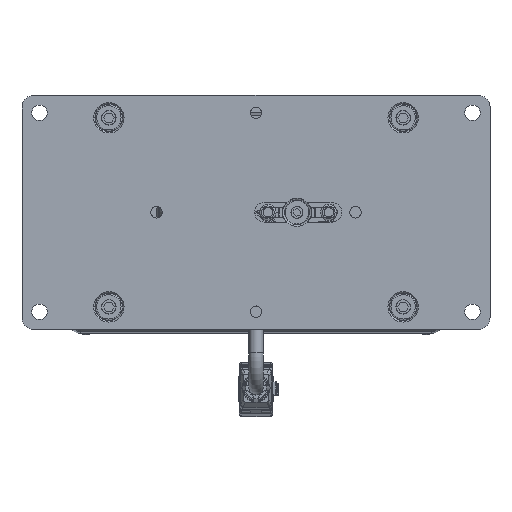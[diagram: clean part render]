
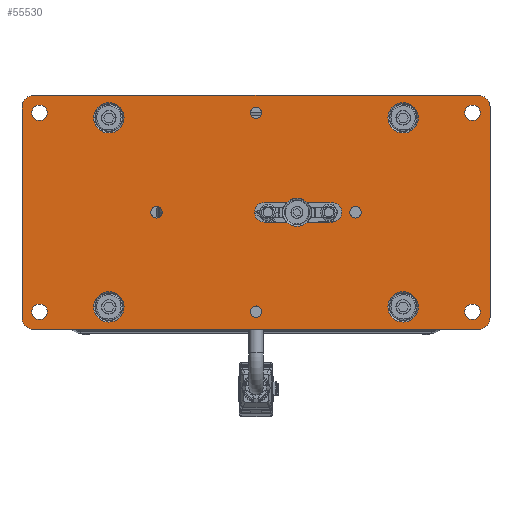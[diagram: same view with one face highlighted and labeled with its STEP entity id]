
A CAD part, top view. The second image highlights one B-rep face of the part: STEP entity #55530.
In plain terms, the highlighted planar face has unit normal (0, 0, 1).
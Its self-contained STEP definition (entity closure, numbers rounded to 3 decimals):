
#2970=LINE('',#78320,#6302);
#2971=LINE('',#78324,#6303);
#2972=LINE('',#78328,#6304);
#2973=LINE('',#78332,#6305);
#2974=LINE('',#78333,#6306);
#2975=LINE('',#78338,#6307);
#2976=LINE('',#78342,#6308);
#2977=LINE('',#78343,#6309);
#6302=VECTOR('',#64443,1000.);
#6303=VECTOR('',#64446,1000.);
#6304=VECTOR('',#64449,1000.);
#6305=VECTOR('',#64452,1000.);
#6306=VECTOR('',#64453,1000.);
#6307=VECTOR('',#64456,1000.);
#6308=VECTOR('',#64459,1000.);
#6309=VECTOR('',#64460,1000.);
#10050=ORIENTED_EDGE('',*,*,#23076,.F.);
#10051=ORIENTED_EDGE('',*,*,#23077,.F.);
#10052=ORIENTED_EDGE('',*,*,#23078,.F.);
#10053=ORIENTED_EDGE('',*,*,#23079,.F.);
#10054=ORIENTED_EDGE('',*,*,#23080,.T.);
#10055=ORIENTED_EDGE('',*,*,#23081,.T.);
#10056=ORIENTED_EDGE('',*,*,#23082,.T.);
#10057=ORIENTED_EDGE('',*,*,#23083,.T.);
#10058=ORIENTED_EDGE('',*,*,#23084,.F.);
#10059=ORIENTED_EDGE('',*,*,#23085,.F.);
#10060=ORIENTED_EDGE('',*,*,#23086,.F.);
#10061=ORIENTED_EDGE('',*,*,#23087,.F.);
#10062=ORIENTED_EDGE('',*,*,#23088,.T.);
#10063=ORIENTED_EDGE('',*,*,#23089,.T.);
#10064=ORIENTED_EDGE('',*,*,#23090,.T.);
#10065=ORIENTED_EDGE('',*,*,#23091,.T.);
#10066=ORIENTED_EDGE('',*,*,#23092,.T.);
#10067=ORIENTED_EDGE('',*,*,#23093,.T.);
#10068=ORIENTED_EDGE('',*,*,#23094,.T.);
#10069=ORIENTED_EDGE('',*,*,#23095,.T.);
#10070=ORIENTED_EDGE('',*,*,#23096,.F.);
#10071=ORIENTED_EDGE('',*,*,#23097,.T.);
#10072=ORIENTED_EDGE('',*,*,#23098,.F.);
#10073=ORIENTED_EDGE('',*,*,#23099,.T.);
#10074=ORIENTED_EDGE('',*,*,#23100,.T.);
#10075=ORIENTED_EDGE('',*,*,#23069,.T.);
#10076=ORIENTED_EDGE('',*,*,#23101,.T.);
#10077=ORIENTED_EDGE('',*,*,#23102,.T.);
#23069=EDGE_CURVE('',#29643,#29641,#33993,.T.);
#23076=EDGE_CURVE('',#29649,#29649,#33997,.T.);
#23077=EDGE_CURVE('',#29650,#29650,#33998,.T.);
#23078=EDGE_CURVE('',#29651,#29651,#33999,.T.);
#23079=EDGE_CURVE('',#29652,#29652,#34000,.T.);
#23080=EDGE_CURVE('',#29653,#29653,#34001,.T.);
#23081=EDGE_CURVE('',#29654,#29654,#34002,.T.);
#23082=EDGE_CURVE('',#29655,#29655,#34003,.T.);
#23083=EDGE_CURVE('',#29656,#29656,#34004,.T.);
#23084=EDGE_CURVE('',#29657,#29657,#34005,.T.);
#23085=EDGE_CURVE('',#29658,#29658,#34006,.T.);
#23086=EDGE_CURVE('',#29659,#29659,#34007,.T.);
#23087=EDGE_CURVE('',#29660,#29660,#34008,.T.);
#23088=EDGE_CURVE('',#29661,#29662,#34009,.T.);
#23089=EDGE_CURVE('',#29662,#29663,#2970,.T.);
#23090=EDGE_CURVE('',#29663,#29664,#34010,.T.);
#23091=EDGE_CURVE('',#29664,#29665,#2971,.T.);
#23092=EDGE_CURVE('',#29665,#29666,#34011,.T.);
#23093=EDGE_CURVE('',#29666,#29667,#2972,.T.);
#23094=EDGE_CURVE('',#29667,#29668,#34012,.T.);
#23095=EDGE_CURVE('',#29668,#29661,#2973,.T.);
#23096=EDGE_CURVE('',#29669,#29670,#2974,.T.);
#23097=EDGE_CURVE('',#29669,#29671,#34013,.T.);
#23098=EDGE_CURVE('',#29672,#29671,#2975,.T.);
#23099=EDGE_CURVE('',#29672,#29673,#34014,.T.);
#23100=EDGE_CURVE('',#29673,#29643,#2976,.T.);
#23101=EDGE_CURVE('',#29641,#29674,#2977,.T.);
#23102=EDGE_CURVE('',#29674,#29670,#34015,.T.);
#29641=VERTEX_POINT('',#78277);
#29643=VERTEX_POINT('',#78280);
#29649=VERTEX_POINT('',#78294);
#29650=VERTEX_POINT('',#78296);
#29651=VERTEX_POINT('',#78298);
#29652=VERTEX_POINT('',#78300);
#29653=VERTEX_POINT('',#78302);
#29654=VERTEX_POINT('',#78304);
#29655=VERTEX_POINT('',#78306);
#29656=VERTEX_POINT('',#78308);
#29657=VERTEX_POINT('',#78310);
#29658=VERTEX_POINT('',#78312);
#29659=VERTEX_POINT('',#78314);
#29660=VERTEX_POINT('',#78316);
#29661=VERTEX_POINT('',#78318);
#29662=VERTEX_POINT('',#78319);
#29663=VERTEX_POINT('',#78321);
#29664=VERTEX_POINT('',#78323);
#29665=VERTEX_POINT('',#78325);
#29666=VERTEX_POINT('',#78327);
#29667=VERTEX_POINT('',#78329);
#29668=VERTEX_POINT('',#78331);
#29669=VERTEX_POINT('',#78334);
#29670=VERTEX_POINT('',#78335);
#29671=VERTEX_POINT('',#78337);
#29672=VERTEX_POINT('',#78339);
#29673=VERTEX_POINT('',#78341);
#29674=VERTEX_POINT('',#78344);
#33993=CIRCLE('',#58694,6.);
#33997=CIRCLE('',#58699,2.459);
#33998=CIRCLE('',#58700,2.459);
#33999=CIRCLE('',#58701,2.459);
#34000=CIRCLE('',#58702,2.459);
#34001=CIRCLE('',#58703,6.5);
#34002=CIRCLE('',#58704,6.5);
#34003=CIRCLE('',#58705,6.5);
#34004=CIRCLE('',#58706,6.5);
#34005=CIRCLE('',#58707,3.3);
#34006=CIRCLE('',#58708,3.3);
#34007=CIRCLE('',#58709,3.3);
#34008=CIRCLE('',#58710,3.3);
#34009=CIRCLE('',#58711,5.);
#34010=CIRCLE('',#58712,5.);
#34011=CIRCLE('',#58713,5.);
#34012=CIRCLE('',#58714,5.);
#34013=CIRCLE('',#58715,6.);
#34014=CIRCLE('',#58716,4.15);
#34015=CIRCLE('',#58717,4.15);
#36540=EDGE_LOOP('',(#10050));
#36541=EDGE_LOOP('',(#10051));
#36542=EDGE_LOOP('',(#10052));
#36543=EDGE_LOOP('',(#10053));
#36544=EDGE_LOOP('',(#10054));
#36545=EDGE_LOOP('',(#10055));
#36546=EDGE_LOOP('',(#10056));
#36547=EDGE_LOOP('',(#10057));
#36548=EDGE_LOOP('',(#10058));
#36549=EDGE_LOOP('',(#10059));
#36550=EDGE_LOOP('',(#10060));
#36551=EDGE_LOOP('',(#10061));
#36552=EDGE_LOOP('',(#10062,#10063,#10064,#10065,#10066,#10067,#10068,#10069));
#36553=EDGE_LOOP('',(#10070,#10071,#10072,#10073,#10074,#10075,#10076,#10077));
#40060=FACE_BOUND('',#36540,.T.);
#40061=FACE_BOUND('',#36541,.T.);
#40062=FACE_BOUND('',#36542,.T.);
#40063=FACE_BOUND('',#36543,.T.);
#40064=FACE_BOUND('',#36544,.T.);
#40065=FACE_BOUND('',#36545,.T.);
#40066=FACE_BOUND('',#36546,.T.);
#40067=FACE_BOUND('',#36547,.T.);
#40068=FACE_BOUND('',#36548,.T.);
#40069=FACE_BOUND('',#36549,.T.);
#40070=FACE_BOUND('',#36550,.T.);
#40071=FACE_BOUND('',#36551,.T.);
#40072=FACE_BOUND('',#36552,.T.);
#40073=FACE_BOUND('',#36553,.T.);
#43511=PLANE('',#58698);
#55530=ADVANCED_FACE('',(#40060,#40061,#40062,#40063,#40064,#40065,#40066,
#40067,#40068,#40069,#40070,#40071,#40072,#40073),#43511,.T.);
#58694=AXIS2_PLACEMENT_3D('',#78279,#64404,#64405);
#58698=AXIS2_PLACEMENT_3D('',#78292,#64415,#64416);
#58699=AXIS2_PLACEMENT_3D('',#78293,#64417,#64418);
#58700=AXIS2_PLACEMENT_3D('',#78295,#64419,#64420);
#58701=AXIS2_PLACEMENT_3D('',#78297,#64421,#64422);
#58702=AXIS2_PLACEMENT_3D('',#78299,#64423,#64424);
#58703=AXIS2_PLACEMENT_3D('',#78301,#64425,#64426);
#58704=AXIS2_PLACEMENT_3D('',#78303,#64427,#64428);
#58705=AXIS2_PLACEMENT_3D('',#78305,#64429,#64430);
#58706=AXIS2_PLACEMENT_3D('',#78307,#64431,#64432);
#58707=AXIS2_PLACEMENT_3D('',#78309,#64433,#64434);
#58708=AXIS2_PLACEMENT_3D('',#78311,#64435,#64436);
#58709=AXIS2_PLACEMENT_3D('',#78313,#64437,#64438);
#58710=AXIS2_PLACEMENT_3D('',#78315,#64439,#64440);
#58711=AXIS2_PLACEMENT_3D('',#78317,#64441,#64442);
#58712=AXIS2_PLACEMENT_3D('',#78322,#64444,#64445);
#58713=AXIS2_PLACEMENT_3D('',#78326,#64447,#64448);
#58714=AXIS2_PLACEMENT_3D('',#78330,#64450,#64451);
#58715=AXIS2_PLACEMENT_3D('',#78336,#64454,#64455);
#58716=AXIS2_PLACEMENT_3D('',#78340,#64457,#64458);
#58717=AXIS2_PLACEMENT_3D('',#78345,#64461,#64462);
#64404=DIRECTION('',(0.,0.,-1.));
#64405=DIRECTION('',(1.,0.,0.));
#64415=DIRECTION('',(0.,0.,1.));
#64416=DIRECTION('',(1.,0.,0.));
#64417=DIRECTION('',(0.,0.,1.));
#64418=DIRECTION('',(1.,0.,0.));
#64419=DIRECTION('',(0.,0.,1.));
#64420=DIRECTION('',(1.,0.,0.));
#64421=DIRECTION('',(0.,0.,1.));
#64422=DIRECTION('',(1.,0.,0.));
#64423=DIRECTION('',(0.,0.,1.));
#64424=DIRECTION('',(1.,0.,0.));
#64425=DIRECTION('',(0.,0.,-1.));
#64426=DIRECTION('',(1.,0.,0.));
#64427=DIRECTION('',(0.,0.,-1.));
#64428=DIRECTION('',(1.,0.,0.));
#64429=DIRECTION('',(0.,0.,-1.));
#64430=DIRECTION('',(1.,0.,0.));
#64431=DIRECTION('',(0.,0.,-1.));
#64432=DIRECTION('',(1.,0.,0.));
#64433=DIRECTION('',(0.,0.,1.));
#64434=DIRECTION('',(1.,0.,0.));
#64435=DIRECTION('',(0.,0.,1.));
#64436=DIRECTION('',(1.,0.,0.));
#64437=DIRECTION('',(0.,0.,1.));
#64438=DIRECTION('',(1.,0.,0.));
#64439=DIRECTION('',(0.,0.,1.));
#64440=DIRECTION('',(1.,0.,0.));
#64441=DIRECTION('',(0.,0.,1.));
#64442=DIRECTION('',(1.,0.,0.));
#64443=DIRECTION('',(1.,0.,0.));
#64444=DIRECTION('',(0.,0.,1.));
#64445=DIRECTION('',(-1.,0.,0.));
#64446=DIRECTION('',(0.,1.,0.));
#64447=DIRECTION('',(0.,0.,1.));
#64448=DIRECTION('',(1.,0.,0.));
#64449=DIRECTION('',(-1.,0.,0.));
#64450=DIRECTION('',(0.,0.,1.));
#64451=DIRECTION('',(1.,0.,0.));
#64452=DIRECTION('',(0.,-1.,0.));
#64453=DIRECTION('',(1.,0.,0.));
#64454=DIRECTION('',(0.,0.,-1.));
#64455=DIRECTION('',(1.,0.,0.));
#64456=DIRECTION('',(1.,0.,0.));
#64457=DIRECTION('',(0.,0.,-1.));
#64458=DIRECTION('',(0.,-1.,0.));
#64459=DIRECTION('',(1.,0.,0.));
#64460=DIRECTION('',(1.,0.,0.));
#64461=DIRECTION('',(0.,0.,-1.));
#64462=DIRECTION('',(0.,1.,0.));
#78277=CARTESIAN_POINT('',(21.833,4.15,8.));
#78279=CARTESIAN_POINT('',(17.5,0.,8.));
#78280=CARTESIAN_POINT('',(13.167,4.15,8.));
#78292=CARTESIAN_POINT('',(-95.,-45.,8.));
#78293=CARTESIAN_POINT('',(0.,-42.5,8.));
#78294=CARTESIAN_POINT('',(2.459,-42.5,8.));
#78295=CARTESIAN_POINT('',(42.5,0.,8.));
#78296=CARTESIAN_POINT('',(44.959,0.,8.));
#78297=CARTESIAN_POINT('',(0.,42.5,8.));
#78298=CARTESIAN_POINT('',(2.459,42.5,8.));
#78299=CARTESIAN_POINT('',(-42.5,0.,8.));
#78300=CARTESIAN_POINT('',(-40.042,0.,8.));
#78301=CARTESIAN_POINT('',(-62.9,-40.4,8.));
#78302=CARTESIAN_POINT('',(-56.4,-40.4,8.));
#78303=CARTESIAN_POINT('',(62.9,-40.4,8.));
#78304=CARTESIAN_POINT('',(69.4,-40.4,8.));
#78305=CARTESIAN_POINT('',(62.9,40.4,8.));
#78306=CARTESIAN_POINT('',(69.4,40.4,8.));
#78307=CARTESIAN_POINT('',(-62.9,40.4,8.));
#78308=CARTESIAN_POINT('',(-56.4,40.4,8.));
#78309=CARTESIAN_POINT('',(-92.5,-42.5,8.));
#78310=CARTESIAN_POINT('',(-89.2,-42.5,8.));
#78311=CARTESIAN_POINT('',(92.5,-42.5,8.));
#78312=CARTESIAN_POINT('',(95.8,-42.5,8.));
#78313=CARTESIAN_POINT('',(92.5,42.5,8.));
#78314=CARTESIAN_POINT('',(95.8,42.5,8.));
#78315=CARTESIAN_POINT('',(-92.5,42.5,8.));
#78316=CARTESIAN_POINT('',(-89.2,42.5,8.));
#78317=CARTESIAN_POINT('',(-95.,-45.,8.));
#78318=CARTESIAN_POINT('',(-100.,-45.,8.));
#78319=CARTESIAN_POINT('',(-95.,-50.,8.));
#78320=CARTESIAN_POINT('',(-95.,-50.,8.));
#78321=CARTESIAN_POINT('',(95.,-50.,8.));
#78322=CARTESIAN_POINT('',(95.,-45.,8.));
#78323=CARTESIAN_POINT('',(100.,-45.,8.));
#78324=CARTESIAN_POINT('',(100.,-45.,8.));
#78325=CARTESIAN_POINT('',(100.,45.,8.));
#78326=CARTESIAN_POINT('',(95.,45.,8.));
#78327=CARTESIAN_POINT('',(95.,50.,8.));
#78328=CARTESIAN_POINT('',(95.,50.,8.));
#78329=CARTESIAN_POINT('',(-95.,50.,8.));
#78330=CARTESIAN_POINT('',(-95.,45.,8.));
#78331=CARTESIAN_POINT('',(-100.,45.,8.));
#78332=CARTESIAN_POINT('',(-100.,45.,8.));
#78333=CARTESIAN_POINT('',(3.5,-4.15,8.));
#78334=CARTESIAN_POINT('',(21.833,-4.15,8.));
#78335=CARTESIAN_POINT('',(32.5,-4.15,8.));
#78336=CARTESIAN_POINT('',(17.5,0.,8.));
#78337=CARTESIAN_POINT('',(13.167,-4.15,8.));
#78338=CARTESIAN_POINT('',(3.5,-4.15,8.));
#78339=CARTESIAN_POINT('',(3.5,-4.15,8.));
#78340=CARTESIAN_POINT('',(3.5,0.,8.));
#78341=CARTESIAN_POINT('',(3.5,4.15,8.));
#78342=CARTESIAN_POINT('',(3.5,4.15,8.));
#78343=CARTESIAN_POINT('',(3.5,4.15,8.));
#78344=CARTESIAN_POINT('',(32.5,4.15,8.));
#78345=CARTESIAN_POINT('',(32.5,0.,8.));
